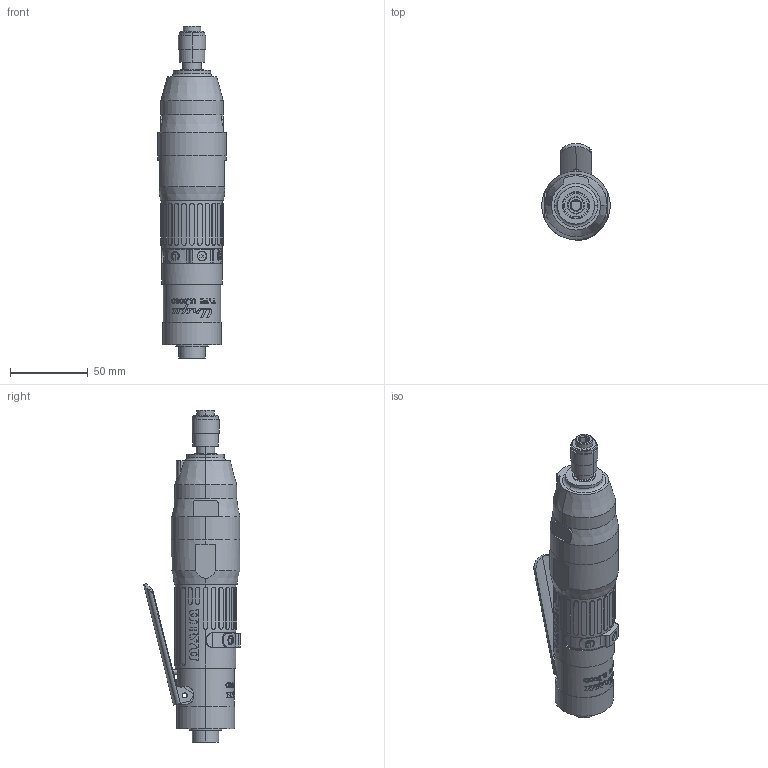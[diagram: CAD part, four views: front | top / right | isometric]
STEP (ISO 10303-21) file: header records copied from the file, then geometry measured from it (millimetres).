
FILE_DESCRIPTION (( 'STEP AP203' ), '1' );
FILE_NAME ('UL50SD.STEP', '2006-06-07T03:39:00', ( '' ), ( '' ), 'SwSTEP 2.0', 'SolidWorks 2003240', '' );
FILE_SCHEMA (( 'CONFIG_CONTROL_DESIGN' ));
Length unit declared in the file: millimetre
Products named in the file (10): 1434393_UL50S_蹬怮椔; 9702210_UL50S_蹬怮椔; 1583506_UL50SD_蹬怮椔; 9810020_UL30D_蹬怮椔; UL50SD; 1060258_UL50S_蹬怮椔; 1612123_UL50S_蹬怮椔; 1961077_UL50S_蹬怮椔; 1288428_UL50S_蹬怮椔; 0113511_UL30D_蹬怮椔
Assembly tree (9 placements, depth 2):
  UL50SD
    1288428_UL50S_蹬怮椔
    9702210_UL50S_蹬怮椔
    1060258_UL50S_蹬怮椔
    1961077_UL50S_蹬怮椔
    9810020_UL30D_蹬怮椔
    1583506_UL50SD_蹬怮椔
    1612123_UL50S_蹬怮椔
    0113511_UL30D_蹬怮椔
    1434393_UL50S_蹬怮椔
Bounding box: 44 x 62.33 x 213.5 mm (x, y, z)
Volume: 224798.5 mm3; surface area: 51911.8 mm2
Topology: 9 solids, 9 shells, 797 faces, 2106 edges, 1396 vertices
Faces by surface type: plane 402, cylinder 289, bspline 84, cone 10, torus 8, sphere 4
Entity records: 34310 total; most frequent: CARTESIAN_POINT 14665, ORIENTED_EDGE 4202, DIRECTION 3356, EDGE_CURVE 2101, VERTEX_POINT 1393, AXIS2_PLACEMENT_3D 1156, VECTOR 1044, LINE 1044
